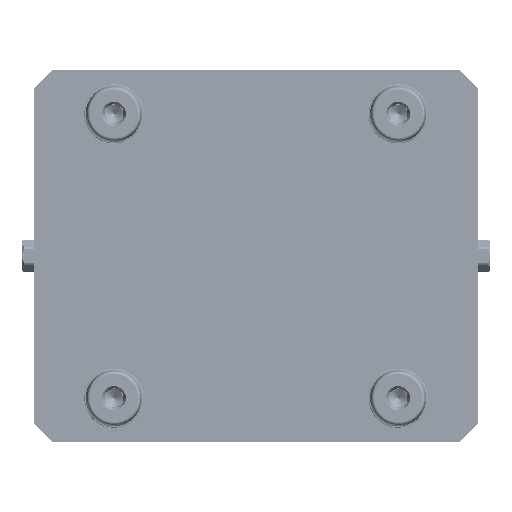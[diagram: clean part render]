
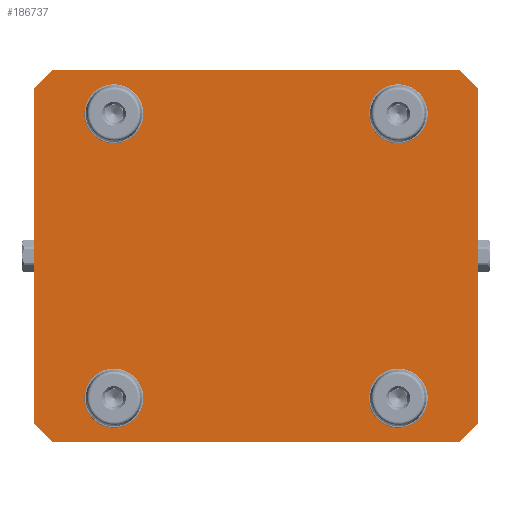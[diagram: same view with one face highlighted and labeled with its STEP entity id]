
A CAD part, front view. The second image highlights one B-rep face of the part: STEP entity #186737.
In plain terms, the highlighted planar face has unit normal (0, -1, 0).
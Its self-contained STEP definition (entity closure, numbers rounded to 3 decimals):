
#42 = CARTESIAN_POINT ( 'NONE',  ( 48., 0., 48. ) ) ;
#3664 = CARTESIAN_POINT ( 'NONE',  ( 48., 0., 39.99 ) ) ;
#4111 = ORIENTED_EDGE ( 'NONE', *, *, #141760, .F. ) ;
#5234 = VECTOR ( 'NONE', #20131, 1000. ) ;
#5336 = VECTOR ( 'NONE', #101009, 1000. ) ;
#5476 = DIRECTION ( 'NONE',  ( 0., 0., 1. ) ) ;
#5870 = LINE ( 'NONE', #170999, #78873 ) ;
#6379 = DIRECTION ( 'NONE',  ( 0., 0., -1. ) ) ;
#9753 = VERTEX_POINT ( 'NONE', #160087 ) ;
#10295 = LINE ( 'NONE', #116875, #121919 ) ;
#12176 = CARTESIAN_POINT ( 'NONE',  ( 48., 0., -39.99 ) ) ;
#12884 = EDGE_CURVE ( 'NONE', #132625, #16759, #169513, .T. ) ;
#14204 = CARTESIAN_POINT ( 'NONE',  ( -48., 0., -48. ) ) ;
#14687 = DIRECTION ( 'NONE',  ( 0., 0., 1. ) ) ;
#16409 = EDGE_LOOP ( 'NONE', ( #52645, #48822 ) ) ;
#16449 = CARTESIAN_POINT ( 'NONE',  ( -75., 0., -56.515 ) ) ;
#16594 = EDGE_LOOP ( 'NONE', ( #66372, #81690 ) ) ;
#16759 = VERTEX_POINT ( 'NONE', #46312 ) ;
#16838 = EDGE_LOOP ( 'NONE', ( #103847, #145428, #139195, #151060, #38282, #149499, #104991, #119088 ) ) ;
#20131 = DIRECTION ( 'NONE',  ( 1., 0., 0. ) ) ;
#20272 = CARTESIAN_POINT ( 'NONE',  ( 68.65, 0., -62.865 ) ) ;
#27295 = DIRECTION ( 'NONE',  ( 0., -1., 0. ) ) ;
#28904 = DIRECTION ( 'NONE',  ( 0., 0., 1. ) ) ;
#28959 = VERTEX_POINT ( 'NONE', #3664 ) ;
#31098 = ORIENTED_EDGE ( 'NONE', *, *, #151191, .F. ) ;
#34784 = ORIENTED_EDGE ( 'NONE', *, *, #99410, .F. ) ;
#38282 = ORIENTED_EDGE ( 'NONE', *, *, #165979, .F. ) ;
#39748 = CARTESIAN_POINT ( 'NONE',  ( 75., 0., -56.515 ) ) ;
#42886 = CARTESIAN_POINT ( 'NONE',  ( -48., 0., -48. ) ) ;
#44297 = VERTEX_POINT ( 'NONE', #66951 ) ;
#45061 = FACE_BOUND ( 'NONE', #16409, .T. ) ;
#46188 = CARTESIAN_POINT ( 'NONE',  ( 48., 0., -48. ) ) ;
#46312 = CARTESIAN_POINT ( 'NONE',  ( -75., 0., 56.515 ) ) ;
#47207 = DIRECTION ( 'NONE',  ( 0., -1., 0. ) ) ;
#47288 = EDGE_CURVE ( 'NONE', #154973, #55808, #129545, .T. ) ;
#47379 = AXIS2_PLACEMENT_3D ( 'NONE', #134342, #47207, #149040 ) ;
#48109 = CARTESIAN_POINT ( 'NONE',  ( -75., 0., -62.865 ) ) ;
#48463 = CARTESIAN_POINT ( 'NONE',  ( 75., 0., 56.515 ) ) ;
#48822 = ORIENTED_EDGE ( 'NONE', *, *, #132229, .F. ) ;
#49741 = VERTEX_POINT ( 'NONE', #162423 ) ;
#52132 = VECTOR ( 'NONE', #120613, 1000. ) ;
#52543 = EDGE_CURVE ( 'NONE', #154973, #77333, #5870, .T. ) ;
#52645 = ORIENTED_EDGE ( 'NONE', *, *, #179053, .F. ) ;
#53408 = VECTOR ( 'NONE', #164580, 1000. ) ;
#54033 = VERTEX_POINT ( 'NONE', #175579 ) ;
#55808 = VERTEX_POINT ( 'NONE', #39748 ) ;
#56860 = CIRCLE ( 'NONE', #75229, 8.01 ) ;
#57503 = DIRECTION ( 'NONE',  ( 0., 0., 1. ) ) ;
#58803 = CARTESIAN_POINT ( 'NONE',  ( -68.65, 0., -62.865 ) ) ;
#60904 = DIRECTION ( 'NONE',  ( 0., 0., -1. ) ) ;
#63220 = DIRECTION ( 'NONE',  ( -0.707, 0., 0.707 ) ) ;
#65214 = VERTEX_POINT ( 'NONE', #12176 ) ;
#66372 = ORIENTED_EDGE ( 'NONE', *, *, #111119, .F. ) ;
#66951 = CARTESIAN_POINT ( 'NONE',  ( -48., 0., 39.99 ) ) ;
#68876 = AXIS2_PLACEMENT_3D ( 'NONE', #169563, #82520, #184210 ) ;
#70374 = CIRCLE ( 'NONE', #81726, 8.01 ) ;
#74384 = LINE ( 'NONE', #48463, #83494 ) ;
#75229 = AXIS2_PLACEMENT_3D ( 'NONE', #180747, #93715, #6379 ) ;
#75384 = AXIS2_PLACEMENT_3D ( 'NONE', #179882, #92852, #5476 ) ;
#77333 = VERTEX_POINT ( 'NONE', #58803 ) ;
#78181 = PLANE ( 'NONE',  #75384 ) ;
#78293 = CIRCLE ( 'NONE', #99577, 8.01 ) ;
#78873 = VECTOR ( 'NONE', #186259, 1000. ) ;
#79268 = FACE_BOUND ( 'NONE', #16594, .T. ) ;
#80503 = DIRECTION ( 'NONE',  ( -0.707, 0., -0.707 ) ) ;
#81690 = ORIENTED_EDGE ( 'NONE', *, *, #176309, .F. ) ;
#81726 = AXIS2_PLACEMENT_3D ( 'NONE', #46188, #148024, #60904 ) ;
#82520 = DIRECTION ( 'NONE',  ( 0., -1., 0. ) ) ;
#83494 = VECTOR ( 'NONE', #63220, 1000. ) ;
#84909 = EDGE_CURVE ( 'NONE', #115085, #28959, #127171, .T. ) ;
#87403 = AXIS2_PLACEMENT_3D ( 'NONE', #14204, #116056, #28904 ) ;
#90120 = VERTEX_POINT ( 'NONE', #167003 ) ;
#92852 = DIRECTION ( 'NONE',  ( 0., 1., 0. ) ) ;
#93715 = DIRECTION ( 'NONE',  ( 0., -1., 0. ) ) ;
#99410 = EDGE_CURVE ( 'NONE', #65214, #113216, #70374, .T. ) ;
#99577 = AXIS2_PLACEMENT_3D ( 'NONE', #42886, #144703, #57503 ) ;
#101009 = DIRECTION ( 'NONE',  ( 0., 0., -1. ) ) ;
#101295 = CARTESIAN_POINT ( 'NONE',  ( 48., 0., -56.01 ) ) ;
#102027 = DIRECTION ( 'NONE',  ( 0., -1., 0. ) ) ;
#103847 = ORIENTED_EDGE ( 'NONE', *, *, #52543, .F. ) ;
#103911 = EDGE_CURVE ( 'NONE', #118422, #16759, #176833, .T. ) ;
#104991 = ORIENTED_EDGE ( 'NONE', *, *, #12884, .F. ) ;
#105049 = EDGE_CURVE ( 'NONE', #132625, #77333, #10295, .T. ) ;
#105244 = EDGE_LOOP ( 'NONE', ( #4111, #105335 ) ) ;
#105335 = ORIENTED_EDGE ( 'NONE', *, *, #84909, .F. ) ;
#107407 = CARTESIAN_POINT ( 'NONE',  ( -75., 0., 62.865 ) ) ;
#108087 = AXIS2_PLACEMENT_3D ( 'NONE', #42, #102027, #14687 ) ;
#111119 = EDGE_CURVE ( 'NONE', #180681, #9753, #78293, .T. ) ;
#113216 = VERTEX_POINT ( 'NONE', #101295 ) ;
#114465 = CARTESIAN_POINT ( 'NONE',  ( 48., 0., -48. ) ) ;
#114913 = CARTESIAN_POINT ( 'NONE',  ( 75., 0., -62.865 ) ) ;
#115085 = VERTEX_POINT ( 'NONE', #165341 ) ;
#116056 = DIRECTION ( 'NONE',  ( 0., -1., 0. ) ) ;
#116607 = CIRCLE ( 'NONE', #178816, 8.01 ) ;
#116875 = CARTESIAN_POINT ( 'NONE',  ( -75., 0., -56.515 ) ) ;
#117929 = FACE_OUTER_BOUND ( 'NONE', #16838, .T. ) ;
#118422 = VERTEX_POINT ( 'NONE', #185509 ) ;
#119088 = ORIENTED_EDGE ( 'NONE', *, *, #105049, .T. ) ;
#120613 = DIRECTION ( 'NONE',  ( 0.707, 0., 0.707 ) ) ;
#121531 = LINE ( 'NONE', #114913, #5336 ) ;
#121919 = VECTOR ( 'NONE', #160761, 1000. ) ;
#122459 = FACE_BOUND ( 'NONE', #105244, .T. ) ;
#127171 = CIRCLE ( 'NONE', #68876, 8.01 ) ;
#129000 = DIRECTION ( 'NONE',  ( 0., 0., -1. ) ) ;
#129545 = LINE ( 'NONE', #179140, #52132 ) ;
#132229 = EDGE_CURVE ( 'NONE', #54033, #44297, #56860, .T. ) ;
#132625 = VERTEX_POINT ( 'NONE', #16449 ) ;
#134342 = CARTESIAN_POINT ( 'NONE',  ( -48., 0., 48. ) ) ;
#138102 = VECTOR ( 'NONE', #80503, 1000. ) ;
#139195 = ORIENTED_EDGE ( 'NONE', *, *, #158993, .F. ) ;
#141760 = EDGE_CURVE ( 'NONE', #28959, #115085, #148064, .T. ) ;
#144703 = DIRECTION ( 'NONE',  ( 0., -1., 0. ) ) ;
#145428 = ORIENTED_EDGE ( 'NONE', *, *, #47288, .T. ) ;
#148024 = DIRECTION ( 'NONE',  ( 0., -1., 0. ) ) ;
#148064 = CIRCLE ( 'NONE', #108087, 8.01 ) ;
#149040 = DIRECTION ( 'NONE',  ( 0., 0., -1. ) ) ;
#149499 = ORIENTED_EDGE ( 'NONE', *, *, #103911, .T. ) ;
#151060 = ORIENTED_EDGE ( 'NONE', *, *, #163697, .T. ) ;
#151191 = EDGE_CURVE ( 'NONE', #113216, #65214, #116607, .T. ) ;
#154973 = VERTEX_POINT ( 'NONE', #20272 ) ;
#156586 = FACE_BOUND ( 'NONE', #166200, .T. ) ;
#158872 = CIRCLE ( 'NONE', #47379, 8.01 ) ;
#158993 = EDGE_CURVE ( 'NONE', #49741, #55808, #121531, .T. ) ;
#160087 = CARTESIAN_POINT ( 'NONE',  ( -48., 0., -39.99 ) ) ;
#160761 = DIRECTION ( 'NONE',  ( 0.707, 0., -0.707 ) ) ;
#162423 = CARTESIAN_POINT ( 'NONE',  ( 75., 0., 56.515 ) ) ;
#163697 = EDGE_CURVE ( 'NONE', #49741, #90120, #74384, .T. ) ;
#164580 = DIRECTION ( 'NONE',  ( 0., 0., 1. ) ) ;
#165341 = CARTESIAN_POINT ( 'NONE',  ( 48., 0., 56.01 ) ) ;
#165979 = EDGE_CURVE ( 'NONE', #118422, #90120, #180568, .T. ) ;
#166200 = EDGE_LOOP ( 'NONE', ( #31098, #34784 ) ) ;
#167003 = CARTESIAN_POINT ( 'NONE',  ( 68.65, 0., 62.865 ) ) ;
#167551 = CARTESIAN_POINT ( 'NONE',  ( -68.65, 0., 62.865 ) ) ;
#169513 = LINE ( 'NONE', #48109, #53408 ) ;
#169563 = CARTESIAN_POINT ( 'NONE',  ( 48., 0., 48. ) ) ;
#170999 = CARTESIAN_POINT ( 'NONE',  ( -75., 0., -62.865 ) ) ;
#173585 = CIRCLE ( 'NONE', #87403, 8.01 ) ;
#175579 = CARTESIAN_POINT ( 'NONE',  ( -48., 0., 56.01 ) ) ;
#176309 = EDGE_CURVE ( 'NONE', #9753, #180681, #173585, .T. ) ;
#176833 = LINE ( 'NONE', #167551, #138102 ) ;
#178816 = AXIS2_PLACEMENT_3D ( 'NONE', #114465, #27295, #129000 ) ;
#179053 = EDGE_CURVE ( 'NONE', #44297, #54033, #158872, .T. ) ;
#179140 = CARTESIAN_POINT ( 'NONE',  ( 68.65, 0., -62.865 ) ) ;
#179882 = CARTESIAN_POINT ( 'NONE',  ( 0., 0., 0. ) ) ;
#180568 = LINE ( 'NONE', #107407, #5234 ) ;
#180681 = VERTEX_POINT ( 'NONE', #182435 ) ;
#180747 = CARTESIAN_POINT ( 'NONE',  ( -48., 0., 48. ) ) ;
#182435 = CARTESIAN_POINT ( 'NONE',  ( -48., 0., -56.01 ) ) ;
#184210 = DIRECTION ( 'NONE',  ( 0., 0., 1. ) ) ;
#185509 = CARTESIAN_POINT ( 'NONE',  ( -68.65, 0., 62.865 ) ) ;
#186259 = DIRECTION ( 'NONE',  ( -1., 0., 0. ) ) ;
#186737 = ADVANCED_FACE ( 'NONE', ( #122459, #79268, #156586, #45061, #117929 ), #78181, .F. ) ;
